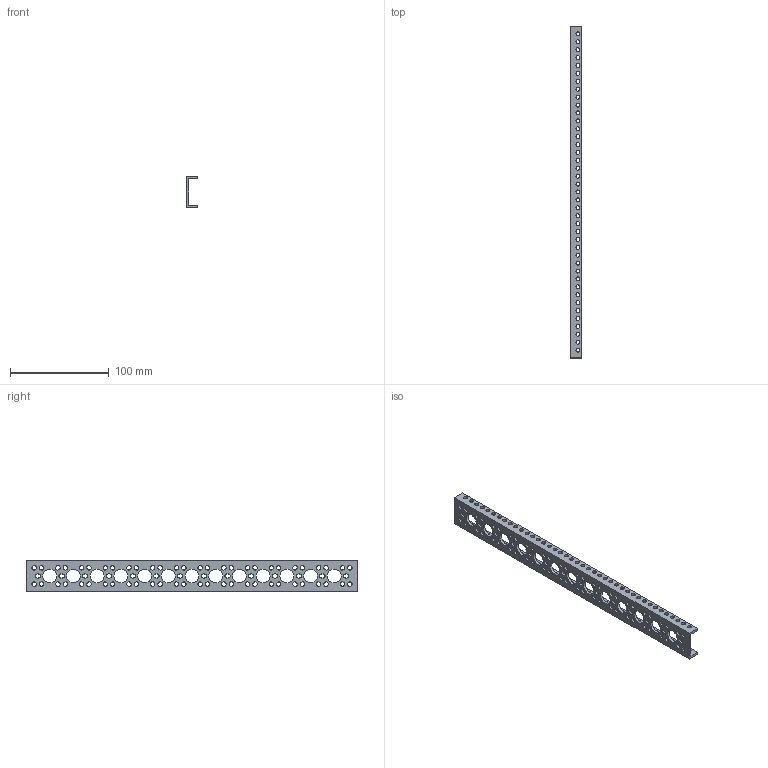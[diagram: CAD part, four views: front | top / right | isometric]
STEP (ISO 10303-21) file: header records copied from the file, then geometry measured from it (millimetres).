
FILE_DESCRIPTION (( 'STEP AP203' ), '1' );
FILE_NAME ('1143-0013-0336.STEP', '2022-04-26T18:57:54', ( '' ), ( '' ), 'SwSTEP 2.0', 'SolidWorks 2016', '' );
FILE_SCHEMA (( 'CONFIG_CONTROL_DESIGN' ));
Length unit declared in the file: millimetre
Products named in the file (1): 1143-0013-0336
Bounding box: 12 x 336 x 32 mm (x, y, z)
Volume: 32358 mm3; surface area: 34374 mm2
Topology: 1 solids, 1 shells, 536 faces, 1602 edges, 1068 vertices
Faces by surface type: cylinder 386, plane 150
Entity records: 19155 total; most frequent: DIRECTION 3448, CARTESIAN_POINT 3207, ORIENTED_EDGE 3204, EDGE_CURVE 1602, AXIS2_PLACEMENT_3D 1309, VERTEX_POINT 1068, EDGE_LOOP 866, VECTOR 830
